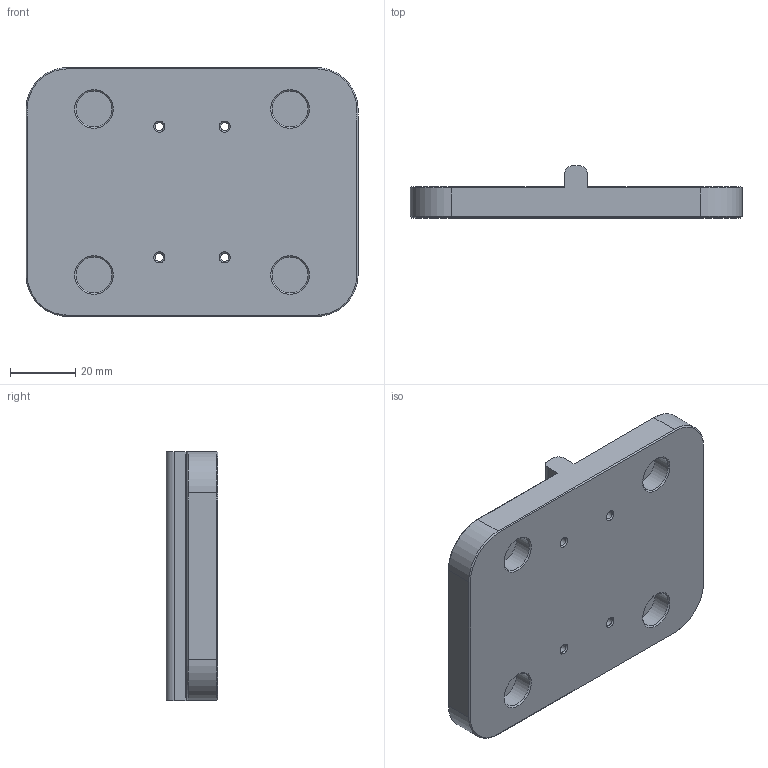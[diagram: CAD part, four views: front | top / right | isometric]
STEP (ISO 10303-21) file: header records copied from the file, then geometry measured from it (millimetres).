
FILE_DESCRIPTION(/* description */ (''),/* implementation_level */ '2;1');
FILE_NAME(/* name */ '54993 - Valve Plate.step',/* time_stamp */ '2025-10-28T12:53:53-05:00',/* author */ (''),/* organization */ (''),/* preprocessor_version */ 'ST-DEVELOPER v20.1',/* originating_system */ 'Autodesk Translation Framework v14.17.0.0',/* authorisation */ '');
FILE_SCHEMA (('AUTOMOTIVE_DESIGN { 1 0 10303 214 3 1 1 }'));
Length unit declared in the file: millimetre
Products named in the file (1): Valve Plate
Bounding box: 101.6 x 15.88 x 76.2 mm (x, y, z)
Volume: 72582.1 mm3; surface area: 20385.2 mm2
Topology: 1 solids, 1 shells, 72 faces, 154 edges, 92 vertices
Faces by surface type: plane 30, cone 24, cylinder 18
Full cylindrical faces by diameter (mm): 2.529 x4, 7.01 x4, 10.998 x4
Entity records: 1978 total; most frequent: DIRECTION 360, CARTESIAN_POINT 319, ORIENTED_EDGE 308, EDGE_CURVE 154, AXIS2_PLACEMENT_3D 133, LINE 94, VECTOR 94, VERTEX_POINT 92
